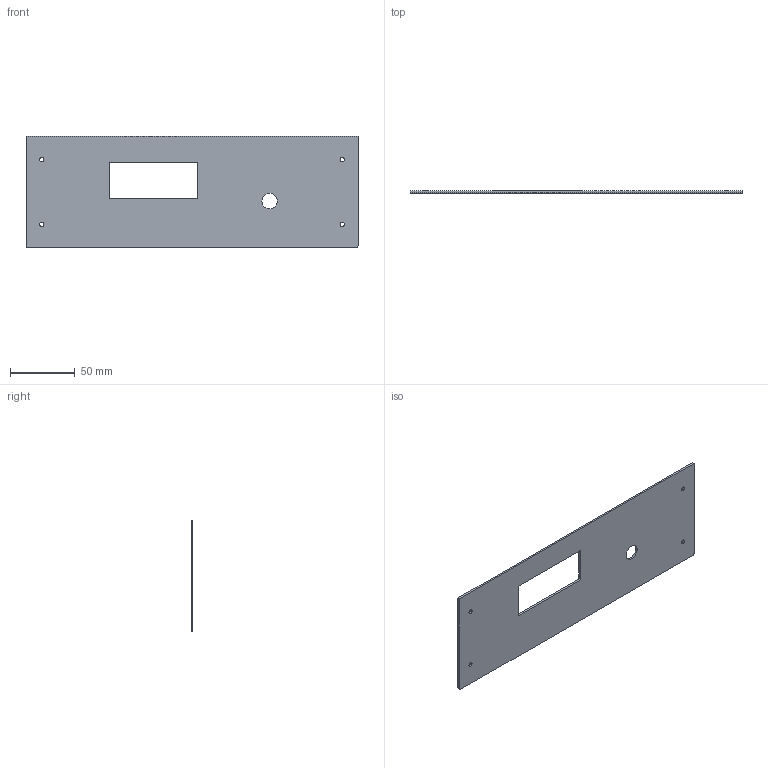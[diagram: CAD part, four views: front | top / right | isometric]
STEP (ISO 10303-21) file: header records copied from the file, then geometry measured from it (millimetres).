
FILE_DESCRIPTION(('Open CASCADE Model'),'2;1');
FILE_NAME('Open CASCADE Shape Model','2026-10-28T07:21:43',('Author'),( 'Open CASCADE'),'Open CASCADE STEP processor 7.8','Open CASCADE 7.8' ,'Unknown');
FILE_SCHEMA(('AUTOMOTIVE_DESIGN { 1 0 10303 214 1 1 1 1 }'));
Length unit declared in the file: millimetre
Products named in the file (1): Open CASCADE STEP translator 7.8 14
Bounding box: 256.4 x 1.5 x 86.4 mm (x, y, z)
Volume: 30147.5 mm3; surface area: 41631.5 mm2
Topology: 1 solids, 1 shells, 17 faces, 45 edges, 30 vertices
Faces by surface type: plane 10, cylinder 7
Full cylindrical faces by diameter (mm): 3.4 x4, 12 x1
Entity records: 1166 total; most frequent: CARTESIAN_POINT 259, DIRECTION 159, LINE 91, VECTOR 91, ORIENTED_EDGE 90, PCURVE 90, DEFINITIONAL_REPRESENTATION 90, EDGE_CURVE 45
